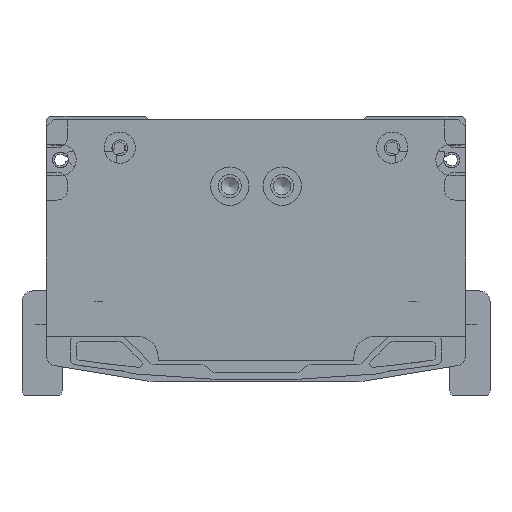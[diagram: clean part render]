
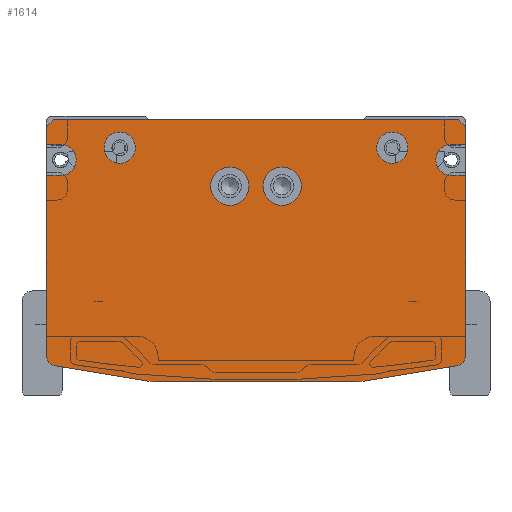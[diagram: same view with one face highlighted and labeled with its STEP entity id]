
A CAD part, front view. The second image highlights one B-rep face of the part: STEP entity #1614.
In plain terms, the highlighted planar face has unit normal (0, -1, 0).
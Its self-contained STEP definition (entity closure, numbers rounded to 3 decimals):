
#1614=ADVANCED_FACE('',(#4852,#4853,#4854,#4855,#4856),#2245,.F.);
#2245=PLANE('',#16051);
#2704=LINE('',#23016,#3768);
#2708=LINE('',#23024,#3772);
#2843=LINE('',#23836,#3907);
#2870=LINE('',#23890,#3934);
#2874=LINE('',#23898,#3938);
#3048=LINE('',#25085,#4112);
#3050=LINE('',#25088,#4114);
#3054=LINE('',#25095,#4118);
#3057=LINE('',#25104,#4121);
#3070=LINE('',#25139,#4134);
#3075=LINE('',#25153,#4139);
#3079=LINE('',#25165,#4143);
#3101=LINE('',#25227,#4165);
#3104=LINE('',#25236,#4168);
#3768=VECTOR('',#17818,1.);
#3772=VECTOR('',#17822,1.);
#3907=VECTOR('',#18279,1.);
#3934=VECTOR('',#18320,1.);
#3938=VECTOR('',#18324,1.);
#4112=VECTOR('',#19132,1.);
#4114=VECTOR('',#19136,1.);
#4118=VECTOR('',#19142,1.);
#4121=VECTOR('',#19153,1.);
#4134=VECTOR('',#19186,1.);
#4139=VECTOR('',#19199,1.);
#4143=VECTOR('',#19211,1.);
#4165=VECTOR('',#19287,1.);
#4168=VECTOR('',#19298,1.);
#4852=FACE_BOUND('',#5957,.T.);
#4853=FACE_BOUND('',#5958,.T.);
#4854=FACE_BOUND('',#5959,.T.);
#4855=FACE_BOUND('',#5960,.T.);
#4856=FACE_BOUND('',#5961,.T.);
#5957=EDGE_LOOP('',(#8769));
#5958=EDGE_LOOP('',(#8770));
#5959=EDGE_LOOP('',(#8771,#8772,#8773,#8774,#8775,#8776,#8777,#8778,#8779,
#8780,#8781,#8782,#8783,#8784,#8785,#8786,#8787,#8788,#8789,#8790));
#5960=EDGE_LOOP('',(#8791));
#5961=EDGE_LOOP('',(#8792));
#8769=ORIENTED_EDGE('',*,*,#13441,.T.);
#8770=ORIENTED_EDGE('',*,*,#13445,.T.);
#8771=ORIENTED_EDGE('',*,*,#13506,.T.);
#8772=ORIENTED_EDGE('',*,*,#13502,.F.);
#8773=ORIENTED_EDGE('',*,*,#13500,.F.);
#8774=ORIENTED_EDGE('',*,*,#13497,.F.);
#8775=ORIENTED_EDGE('',*,*,#13493,.T.);
#8776=ORIENTED_EDGE('',*,*,#13490,.T.);
#8777=ORIENTED_EDGE('',*,*,#13135,.F.);
#8778=ORIENTED_EDGE('',*,*,#13476,.T.);
#8779=ORIENTED_EDGE('',*,*,#13473,.T.);
#8780=ORIENTED_EDGE('',*,*,#13471,.F.);
#8781=ORIENTED_EDGE('',*,*,#13131,.F.);
#8782=ORIENTED_EDGE('',*,*,#13467,.T.);
#8783=ORIENTED_EDGE('',*,*,#13104,.F.);
#8784=ORIENTED_EDGE('',*,*,#13465,.T.);
#8785=ORIENTED_EDGE('',*,*,#12852,.F.);
#8786=ORIENTED_EDGE('',*,*,#13541,.T.);
#8787=ORIENTED_EDGE('',*,*,#13538,.T.);
#8788=ORIENTED_EDGE('',*,*,#13536,.F.);
#8789=ORIENTED_EDGE('',*,*,#12848,.F.);
#8790=ORIENTED_EDGE('',*,*,#13509,.T.);
#8791=ORIENTED_EDGE('',*,*,#13452,.F.);
#8792=ORIENTED_EDGE('',*,*,#13448,.F.);
#11251=VERTEX_POINT('',#23015);
#11252=VERTEX_POINT('',#23017);
#11255=VERTEX_POINT('',#23023);
#11256=VERTEX_POINT('',#23025);
#11385=VERTEX_POINT('',#23835);
#11386=VERTEX_POINT('',#23837);
#11405=VERTEX_POINT('',#23889);
#11406=VERTEX_POINT('',#23891);
#11409=VERTEX_POINT('',#23897);
#11410=VERTEX_POINT('',#23899);
#11625=VERTEX_POINT('',#25028);
#11629=VERTEX_POINT('',#25039);
#11632=VERTEX_POINT('',#25048);
#11635=VERTEX_POINT('',#25058);
#11643=VERTEX_POINT('',#25093);
#11645=VERTEX_POINT('',#25100);
#11656=VERTEX_POINT('',#25134);
#11658=VERTEX_POINT('',#25140);
#11661=VERTEX_POINT('',#25148);
#11663=VERTEX_POINT('',#25154);
#11664=VERTEX_POINT('',#25158);
#11667=VERTEX_POINT('',#25166);
#11679=VERTEX_POINT('',#25225);
#11681=VERTEX_POINT('',#25232);
#12848=EDGE_CURVE('',#11251,#11252,#2704,.T.);
#12852=EDGE_CURVE('',#11255,#11256,#2708,.T.);
#13104=EDGE_CURVE('',#11385,#11386,#2843,.T.);
#13131=EDGE_CURVE('',#11405,#11406,#2870,.T.);
#13135=EDGE_CURVE('',#11409,#11410,#2874,.T.);
#13441=EDGE_CURVE('',#11625,#11625,#14744,.T.);
#13445=EDGE_CURVE('',#11629,#11629,#14748,.T.);
#13448=EDGE_CURVE('',#11632,#11632,#14751,.T.);
#13452=EDGE_CURVE('',#11635,#11635,#14755,.T.);
#13465=EDGE_CURVE('',#11385,#11256,#3048,.T.);
#13467=EDGE_CURVE('',#11405,#11386,#3050,.T.);
#13471=EDGE_CURVE('',#11406,#11643,#3054,.T.);
#13473=EDGE_CURVE('',#11645,#11643,#14762,.T.);
#13476=EDGE_CURVE('',#11409,#11645,#3057,.T.);
#13490=EDGE_CURVE('',#11656,#11410,#14765,.T.);
#13493=EDGE_CURVE('',#11658,#11656,#3070,.T.);
#13497=EDGE_CURVE('',#11658,#11661,#14768,.T.);
#13500=EDGE_CURVE('',#11661,#11663,#3075,.T.);
#13502=EDGE_CURVE('',#11663,#11664,#14769,.T.);
#13506=EDGE_CURVE('',#11667,#11664,#3079,.T.);
#13509=EDGE_CURVE('',#11251,#11667,#14772,.T.);
#13536=EDGE_CURVE('',#11252,#11679,#3101,.T.);
#13538=EDGE_CURVE('',#11681,#11679,#14780,.T.);
#13541=EDGE_CURVE('',#11255,#11681,#3104,.T.);
#14744=CIRCLE('',#15952,5.5);
#14748=CIRCLE('',#15959,5.5);
#14751=CIRCLE('',#15965,4.5);
#14755=CIRCLE('',#15972,4.5);
#14762=CIRCLE('',#15990,4.5);
#14765=CIRCLE('',#15999,3.);
#14768=CIRCLE('',#16004,10.);
#14769=CIRCLE('',#16007,10.);
#14772=CIRCLE('',#16012,3.);
#14780=CIRCLE('',#16039,4.5);
#15952=AXIS2_PLACEMENT_3D('',#25027,#19057,#19058);
#15959=AXIS2_PLACEMENT_3D('',#25038,#19071,#19072);
#15965=AXIS2_PLACEMENT_3D('',#25047,#19083,#19084);
#15972=AXIS2_PLACEMENT_3D('',#25057,#19097,#19098);
#15990=AXIS2_PLACEMENT_3D('',#25099,#19147,#19148);
#15999=AXIS2_PLACEMENT_3D('',#25133,#19179,#19180);
#16004=AXIS2_PLACEMENT_3D('',#25147,#19193,#19194);
#16007=AXIS2_PLACEMENT_3D('',#25157,#19203,#19204);
#16012=AXIS2_PLACEMENT_3D('',#25170,#19217,#19218);
#16039=AXIS2_PLACEMENT_3D('',#25231,#19292,#19293);
#16051=AXIS2_PLACEMENT_3D('',#25253,#19323,#19324);
#17818=DIRECTION('',(0.,0.,1.));
#17822=DIRECTION('',(0.,0.,1.));
#18279=DIRECTION('',(1.,0.,0.));
#18320=DIRECTION('',(0.,0.,-1.));
#18324=DIRECTION('',(0.,0.,-1.));
#19057=DIRECTION('',(0.,1.,0.));
#19058=DIRECTION('',(1.,0.,0.));
#19071=DIRECTION('',(0.,1.,0.));
#19072=DIRECTION('',(1.,0.,0.));
#19083=DIRECTION('',(0.,-1.,0.));
#19084=DIRECTION('',(1.,0.,0.));
#19097=DIRECTION('',(0.,-1.,0.));
#19098=DIRECTION('',(1.,0.,0.));
#19132=DIRECTION('',(-0.707,0.,-0.707));
#19136=DIRECTION('',(-0.707,0.,0.707));
#19142=DIRECTION('',(-1.,0.,0.));
#19147=DIRECTION('',(0.,1.,0.));
#19148=DIRECTION('',(0.,0.,-1.));
#19153=DIRECTION('',(-1.,0.,0.));
#19179=DIRECTION('',(0.,-1.,0.));
#19180=DIRECTION('',(0.164,0.,-0.986));
#19186=DIRECTION('',(0.986,0.,0.164));
#19193=DIRECTION('',(0.,1.,0.));
#19194=DIRECTION('',(0.164,0.,-0.986));
#19199=DIRECTION('',(-1.,0.,0.));
#19203=DIRECTION('',(0.,1.,0.));
#19204=DIRECTION('',(0.,0.,-1.));
#19211=DIRECTION('',(0.986,0.,-0.164));
#19217=DIRECTION('',(0.,-1.,0.));
#19218=DIRECTION('',(-1.,0.,0.));
#19287=DIRECTION('',(1.,0.,0.));
#19292=DIRECTION('',(0.,1.,0.));
#19293=DIRECTION('',(0.,0.,1.));
#19298=DIRECTION('',(1.,0.,0.));
#19323=DIRECTION('',(0.,1.,0.));
#19324=DIRECTION('',(1.,0.,0.));
#23015=CARTESIAN_POINT('',(-60.,-1212.,-69.459));
#23016=CARTESIAN_POINT('',(-60.,-1212.,-69.459));
#23017=CARTESIAN_POINT('',(-60.,-1212.,-18.));
#23023=CARTESIAN_POINT('',(-60.,-1212.,-9.));
#23024=CARTESIAN_POINT('',(-60.,-1212.,-9.));
#23025=CARTESIAN_POINT('',(-60.,-1212.,-4.));
#23835=CARTESIAN_POINT('',(-58.,-1212.,-2.));
#23836=CARTESIAN_POINT('',(-58.,-1212.,-2.));
#23837=CARTESIAN_POINT('',(58.,-1212.,-2.));
#23889=CARTESIAN_POINT('',(60.,-1212.,-4.));
#23890=CARTESIAN_POINT('',(60.,-1212.,-4.));
#23891=CARTESIAN_POINT('',(60.,-1212.,-9.));
#23897=CARTESIAN_POINT('',(60.,-1212.,-18.));
#23898=CARTESIAN_POINT('',(60.,-1212.,-18.));
#23899=CARTESIAN_POINT('',(60.,-1212.,-69.459));
#25027=CARTESIAN_POINT('',(7.5,-1212.,-21.));
#25028=CARTESIAN_POINT('',(13.,-1212.,-21.));
#25038=CARTESIAN_POINT('',(-7.5,-1212.,-21.));
#25039=CARTESIAN_POINT('',(-2.,-1212.,-21.));
#25047=CARTESIAN_POINT('',(-39.,-1212.,-10.));
#25048=CARTESIAN_POINT('',(-34.5,-1212.,-10.));
#25057=CARTESIAN_POINT('',(39.,-1212.,-10.));
#25058=CARTESIAN_POINT('',(43.5,-1212.,-10.));
#25085=CARTESIAN_POINT('',(-58.,-1212.,-2.));
#25088=CARTESIAN_POINT('',(60.,-1212.,-4.));
#25093=CARTESIAN_POINT('',(56.,-1212.,-9.));
#25095=CARTESIAN_POINT('',(60.,-1212.,-9.));
#25099=CARTESIAN_POINT('',(56.,-1212.,-13.5));
#25100=CARTESIAN_POINT('',(56.,-1212.,-18.));
#25104=CARTESIAN_POINT('',(60.,-1212.,-18.));
#25133=CARTESIAN_POINT('',(57.,-1212.,-69.459));
#25134=CARTESIAN_POINT('',(57.493,-1212.,-72.418));
#25139=CARTESIAN_POINT('',(30.816,-1212.,-76.864));
#25140=CARTESIAN_POINT('',(30.816,-1212.,-76.864));
#25147=CARTESIAN_POINT('',(29.172,-1212.,-67.));
#25148=CARTESIAN_POINT('',(29.172,-1212.,-77.));
#25153=CARTESIAN_POINT('',(29.172,-1212.,-77.));
#25154=CARTESIAN_POINT('',(-29.172,-1212.,-77.));
#25157=CARTESIAN_POINT('',(-29.172,-1212.,-67.));
#25158=CARTESIAN_POINT('',(-30.816,-1212.,-76.864));
#25165=CARTESIAN_POINT('',(-57.493,-1212.,-72.418));
#25166=CARTESIAN_POINT('',(-57.493,-1212.,-72.418));
#25170=CARTESIAN_POINT('',(-57.,-1212.,-69.459));
#25225=CARTESIAN_POINT('',(-56.,-1212.,-18.));
#25227=CARTESIAN_POINT('',(-60.,-1212.,-18.));
#25231=CARTESIAN_POINT('',(-56.,-1212.,-13.5));
#25232=CARTESIAN_POINT('',(-56.,-1212.,-9.));
#25236=CARTESIAN_POINT('',(-60.,-1212.,-9.));
#25253=CARTESIAN_POINT('',(0.,-1212.,-2.));
